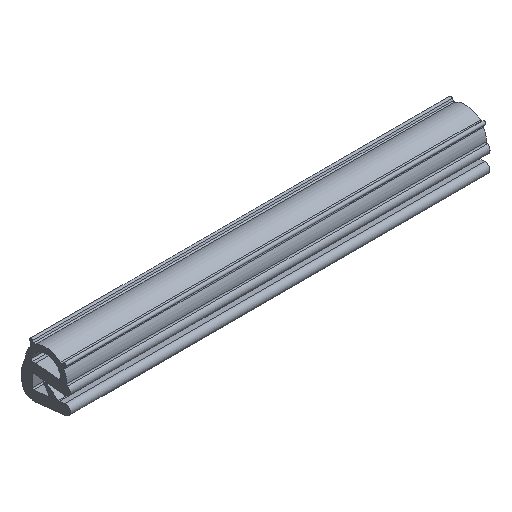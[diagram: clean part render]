
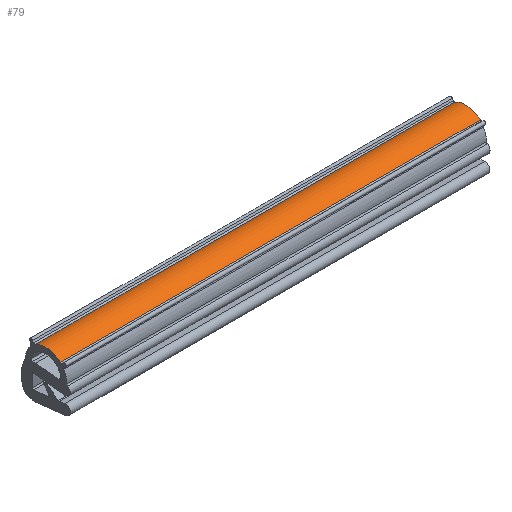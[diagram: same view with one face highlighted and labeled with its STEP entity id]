
A CAD part, isometric view. The second image highlights one B-rep face of the part: STEP entity #79.
In plain terms, the highlighted cylindrical face has radius 4.969 mm (diameter 9.938 mm), a partial arc.
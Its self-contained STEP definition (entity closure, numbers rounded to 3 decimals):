
#79 = ADVANCED_FACE( '', ( #124 ), #125, .T. );
#124 = FACE_OUTER_BOUND( '', #206, .T. );
#125 = CYLINDRICAL_SURFACE( '', #207, 4.969 );
#206 = EDGE_LOOP( '', ( #308, #309, #310, #311 ) );
#207 = AXIS2_PLACEMENT_3D( '', #312, #313, #314 );
#308 = ORIENTED_EDGE( '', *, *, #641, .T. );
#309 = ORIENTED_EDGE( '', *, *, #642, .F. );
#310 = ORIENTED_EDGE( '', *, *, #643, .F. );
#311 = ORIENTED_EDGE( '', *, *, #639, .T. );
#312 = CARTESIAN_POINT( '', ( 100., 5.814, 3.531 ) );
#313 = DIRECTION( '', ( 1., 0., 0. ) );
#314 = DIRECTION( '', ( 0., 0., 1. ) );
#639 = EDGE_CURVE( '', #762, #760, #763, .T. );
#641 = EDGE_CURVE( '', #760, #765, #766, .T. );
#642 = EDGE_CURVE( '', #767, #765, #768, .T. );
#643 = EDGE_CURVE( '', #762, #767, #769, .T. );
#760 = VERTEX_POINT( '', #958 );
#762 = VERTEX_POINT( '', #960 );
#763 = LINE( '', #961, #962 );
#765 = VERTEX_POINT( '', #964 );
#766 = CIRCLE( '', #965, 4.969 );
#767 = VERTEX_POINT( '', #966 );
#768 = LINE( '', #967, #968 );
#769 = CIRCLE( '', #969, 4.969 );
#958 = CARTESIAN_POINT( '', ( 0., 8.352, 7.803 ) );
#960 = CARTESIAN_POINT( '', ( 100., 8.352, 7.803 ) );
#961 = CARTESIAN_POINT( '', ( 100., 8.352, 7.803 ) );
#962 = VECTOR( '', #1207, 1000. );
#964 = CARTESIAN_POINT( '', ( 0., 2.376, 7.119 ) );
#965 = AXIS2_PLACEMENT_3D( '', #1211, #1212, #1213 );
#966 = CARTESIAN_POINT( '', ( 100., 2.376, 7.119 ) );
#967 = CARTESIAN_POINT( '', ( 100., 2.376, 7.119 ) );
#968 = VECTOR( '', #1214, 1000. );
#969 = AXIS2_PLACEMENT_3D( '', #1215, #1216, #1217 );
#1207 = DIRECTION( '', ( -1., 0., 0. ) );
#1211 = CARTESIAN_POINT( '', ( 0., 5.814, 3.531 ) );
#1212 = DIRECTION( '', ( 1., 0., 0. ) );
#1213 = DIRECTION( '', ( 0., 0., -1. ) );
#1214 = DIRECTION( '', ( -1., 0., 0. ) );
#1215 = CARTESIAN_POINT( '', ( 100., 5.814, 3.531 ) );
#1216 = DIRECTION( '', ( 1., 0., 0. ) );
#1217 = DIRECTION( '', ( 0., 0., -1. ) );
